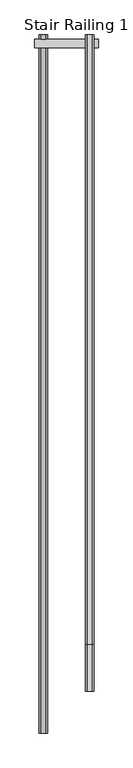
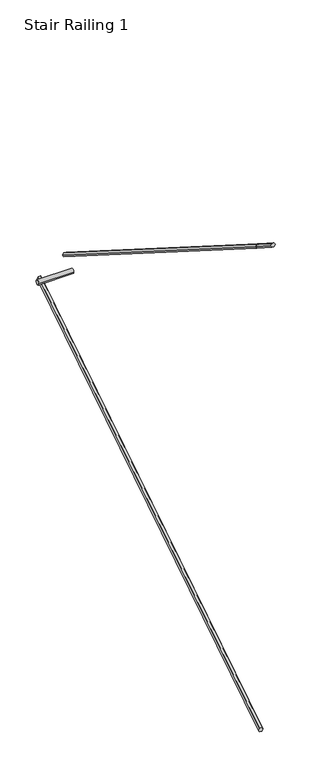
"""IFC4 building model written with IfcOpenShell, lengths in millimetres: railing geometry, Stair Railing 1."""

from ifc_helpers import new_model, si_unit, frame, origin, place, context, project, spatial, circle_curve, faceted_brep, source, transform, mapped, element, save
from ifc_brep_helpers import plane_surface, cylinder_surface, advanced_brep


def stair_railing_1_a10cea20(model_context):
    return source(origin(), model_context, "Body", "SolidModel", [
        faceted_brep([(-1439.8307976, 56365.9133, 3923.8903226), (-1452.5307976, 56365.9133, 3901.8932773), (-1477.9307976, 56365.9133, 3901.8932773), (-1490.6307976, 56365.9133, 3923.8903226), (-1477.9307976, 56365.9133, 3945.8873678), (-1452.5307976, 56365.9133, 3945.8873678), (-1439.8307976, 52206.1846845, 1269.1806452), (-1452.5307976, 52206.1846845, 1291.1776904), (-1477.9307976, 52206.1846845, 1291.1776904), (-1490.6307976, 52206.1846845, 1269.1806452), (-1477.9307976, 52206.1846845, 1247.1835999), (-1452.5307976, 52206.1846845, 1247.1835999)], [[[0, 1, 2, 3, 4, 5]], [[6, 7, 8, 9, 10, 11]], [[1, 0, 6, 11]], [[2, 1, 11, 10]], [[3, 2, 10, 9]], [[4, 3, 9, 8]], [[5, 4, 8, 7]], [[0, 5, 7, 6]]]),
        advanced_brep(
        [(-1136.9891104, 56289.7133, 3923.8903226), (-1136.9891104, 56340.5133, 3923.8903226), (-1516.0307976, 56289.7133, 3923.8903226), (-1516.0307976, 56340.5133, 3923.8903226)],
        [
            (0, 1, circle_curve(frame((-1136.9891104, 56315.1133, 3923.8903226), z_axis=(1.0, 0.0, 0.0), x_axis=(0.0, -1.0, 0.0)), 25.4)),
            (1, 0, circle_curve(frame((-1136.9891104, 56315.1133, 3923.8903226), z_axis=(1.0, 0.0, 0.0), x_axis=(0.0, -1.0, 0.0)), 25.4)),
            (2, 3, circle_curve(frame((-1516.0307976, 56315.1133, 3923.8903226), z_axis=(-1.0, 0.0, 0.0), x_axis=(0.0, -1.0, 0.0)), 25.4)),
            (3, 2, circle_curve(frame((-1516.0307976, 56315.1133, 3923.8903226), z_axis=(-1.0, 0.0, 0.0), x_axis=(0.0, -1.0, 0.0)), 25.4)),
            (0, 2),
            (3, 1),
        ],
        [
            plane_surface(frame((-1136.9891104, 56289.7133, 3898.4903226), z_axis=(1.0, 0.0, 0.0), x_axis=(0.0, 1.0, 0.0))),
            plane_surface(frame((-1516.0307976, 56289.7133, 3898.4903226), z_axis=(-1.0, 0.0, 0.0), x_axis=(0.0, -1.0, 0.0))),
            cylinder_surface(frame((-1516.0307976, 56315.1133, 3923.8903226), z_axis=(1.0, 0.0, 0.0), x_axis=(0.0, -1.0, 0.0)), 25.4),
        ],
        [
            (0, [[1, 2]]),
            (1, [[3, 4]]),
            (2, [[-1, 5, -4, 6]]),
            (2, [[-2, -6, -3, -5]]),
        ],
    ),
        faceted_brep([(-1213.1891104, 52733.7133, 6401.6193548), (-1200.4891104, 52733.7133, 6379.6223096), (-1175.0891104, 52733.7133, 6379.6223096), (-1162.3891104, 52733.7133, 6401.6193548), (-1175.0891104, 52733.7133, 6423.6164001), (-1200.4891104, 52733.7133, 6423.6164001), (-1213.1891104, 56365.9133, 4100.8709677), (-1200.4891104, 56365.9133, 4122.868013), (-1175.0891104, 56365.9133, 4122.868013), (-1162.3891104, 56365.9133, 4100.8709677), (-1175.0891104, 56365.9133, 4078.8739225), (-1200.4891104, 56365.9133, 4078.8739225)], [[[0, 1, 2, 3, 4, 5]], [[6, 7, 8, 9, 10, 11]], [[1, 0, 6, 11]], [[2, 1, 11, 10]], [[3, 2, 10, 9]], [[4, 3, 9, 8]], [[5, 4, 8, 7]], [[0, 5, 7, 6]]]),
        faceted_brep([(-1213.1891104, 52454.3133, 6578.6), (-1200.4891104, 52454.3133, 6556.6029547), (-1175.0891104, 52454.3133, 6556.6029547), (-1162.3891104, 52454.3133, 6578.6), (-1175.0891104, 52454.3133, 6600.5970453), (-1200.4891104, 52454.3133, 6600.5970453), (-1213.1891104, 52733.7133, 6401.6193548), (-1200.4891104, 52733.7133, 6423.6164001), (-1175.0891104, 52733.7133, 6423.6164001), (-1162.3891104, 52733.7133, 6401.6193548), (-1175.0891104, 52733.7133, 6379.6223096), (-1200.4891104, 52733.7133, 6379.6223096)], [[[0, 1, 2, 3, 4, 5]], [[6, 7, 8, 9, 10, 11]], [[1, 0, 6, 11]], [[2, 1, 11, 10]], [[3, 2, 10, 9]], [[4, 3, 9, 8]], [[5, 4, 8, 7]], [[0, 5, 7, 6]]]),
    ])


if __name__ == "__main__":
    model = new_model("IFC4")
    model_context = context("Model", 3, world=origin())
    ifc_project = project(units=[si_unit("LENGTHUNIT", "METRE", prefix="MILLI")], contexts=[model_context])
    site = spatial("IfcSite", under=ifc_project)
    building = spatial("IfcBuilding", under=site)
    placement = place(None, origin())
    stair_railing_1_shape = stair_railing_1_a10cea20(model_context)
    element("IfcRailing", 1, ObjectType="Stair Railing 1", at=placement, inside=building, context=model_context, shape_type="MappedRepresentation", body=[
        mapped(stair_railing_1_shape, transform((0.0, 0.0, 0.0), x_axis=(1.0, 0.0, 0.0), y_axis=(0.0, 1.0, 0.0), z_axis=(0.0, 0.0, 1.0))),
    ])
    save(model, "model.ifc")
